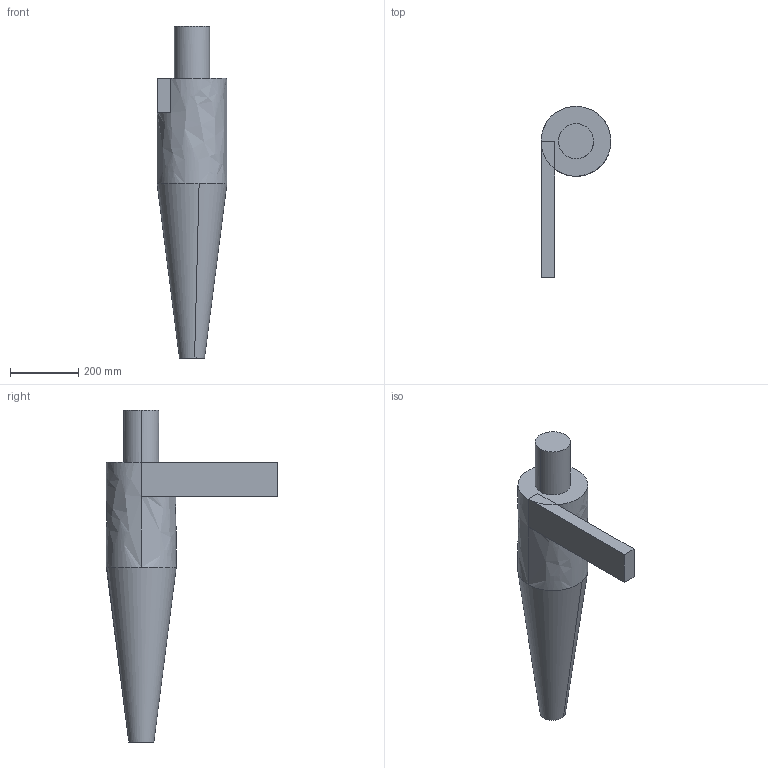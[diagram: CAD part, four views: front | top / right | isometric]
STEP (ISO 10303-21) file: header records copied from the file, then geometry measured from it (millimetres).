
FILE_DESCRIPTION(('Open CASCADE Model'),'2;1');
FILE_NAME('Open CASCADE Shape Model','2019-05-09T18:27:41',('Author'),( 'Open CASCADE'),'Open CASCADE STEP processor 6.9','Open CASCADE 6.9' ,'Unknown');
FILE_SCHEMA(('AUTOMOTIVE_DESIGN { 1 0 10303 214 1 1 1 1 }'));
Length unit declared in the file: millimetre
Products named in the file (3): XFlow STEP translator 1; XFlow STEP translator 1.1; XFlow STEP translator 1.2
Assembly tree (2 placements, depth 2):
  XFlow STEP translator 1
    XFlow STEP translator 1.1
    XFlow STEP translator 1.2
Bounding box: 205 x 502.5 x 974 mm (x, y, z)
Surface area: 639719.8 mm2 (no closed solid volume)
Topology: 0 solids, 2 shells, 17 faces, 44 edges, 30 vertices
Faces by surface type: bspline 17
Entity records: 1745 total; most frequent: CARTESIAN_POINT 1120, B_SPLINE_CURVE_WITH_KNOTS 89, ORIENTED_EDGE 84, PCURVE 84, DEFINITIONAL_REPRESENTATION 84, EDGE_CURVE 44, SURFACE_CURVE 44, VERTEX_POINT 30
